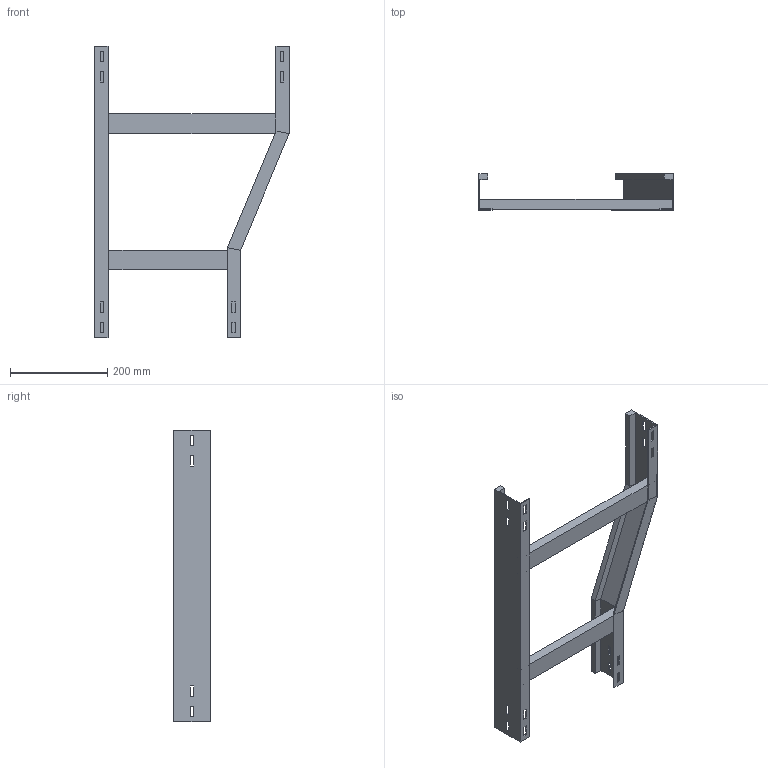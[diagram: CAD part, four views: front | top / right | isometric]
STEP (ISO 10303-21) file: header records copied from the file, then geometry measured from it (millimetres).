
FILE_DESCRIPTION (( 'STEP AP214' ), '1' );
FILE_NAME ('B2X22B3C400XX.step', '2025-09-02T17:18:51', ( '' ), ( '' ), 'SwSTEP 2.0', 'SolidWorks 2023', '' );
FILE_SCHEMA (( 'AUTOMOTIVE_DESIGN' ));
Length unit declared in the file: millimetre
Products named in the file (5): TRAVERSINO_300; B2X22B3C400XX; SPONDA RID. SX 400-300_H75; TRAVERSINO_400; SPONDA DRITTA_H75
Assembly tree (4 placements, depth 2):
  B2X22B3C400XX
    SPONDA DRITTA_H75
    TRAVERSINO_300
    TRAVERSINO_400
    SPONDA RID. SX 400-300_H75
Bounding box: 400 x 75 x 600 mm (x, y, z)
Volume: 1033832 mm3; surface area: 373388 mm2
Topology: 4 solids, 4 shells, 112 faces, 296 edges, 192 vertices
Faces by surface type: plane 112
Entity records: 3590 total; most frequent: CARTESIAN_POINT 607, ORIENTED_EDGE 592, DIRECTION 534, EDGE_CURVE 296, LINE 296, VECTOR 296, VERTEX_POINT 192, EDGE_LOOP 144
